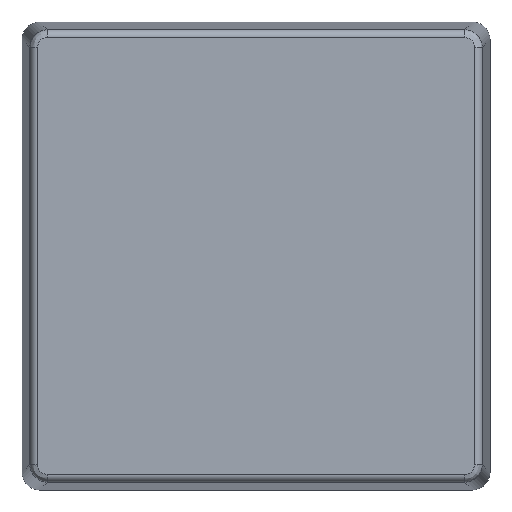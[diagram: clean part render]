
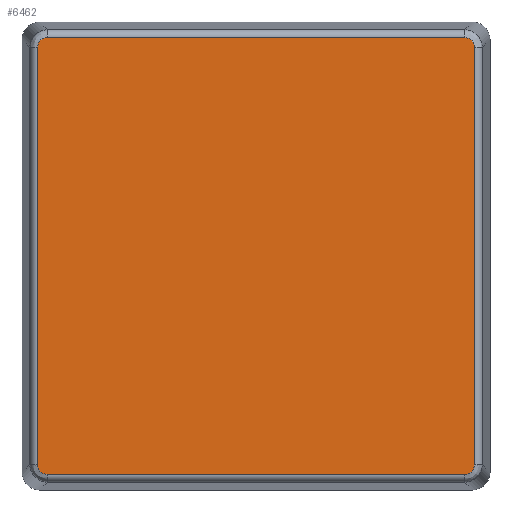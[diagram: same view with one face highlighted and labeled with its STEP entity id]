
A CAD part, front view. The second image highlights one B-rep face of the part: STEP entity #6462.
In plain terms, the highlighted planar face has unit normal (0, -1, 0) as drawn and (0, 0, -1) by its records, which use the part's own axes.
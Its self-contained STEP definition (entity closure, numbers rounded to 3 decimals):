
#63=ELLIPSE('',#6810,2.501,2.5);
#66=ELLIPSE('',#6816,2.501,2.5);
#69=ELLIPSE('',#6822,2.501,2.5);
#72=ELLIPSE('',#6829,2.501,2.5);
#953=FACE_OUTER_BOUND('',#1353,.T.);
#1353=EDGE_LOOP('',(#5396,#5397,#5398,#5399,#5400,#5401,#5402,#5403));
#1891=LINE('',#11469,#2435);
#1895=LINE('',#11516,#2439);
#1897=LINE('',#11519,#2441);
#1899=LINE('',#11522,#2443);
#2435=VECTOR('',#7927,107.015);
#2439=VECTOR('',#7945,107.015);
#2441=VECTOR('',#7949,107.015);
#2443=VECTOR('',#7953,107.015);
#2993=VERTEX_POINT('',#11366);
#2995=VERTEX_POINT('',#11370);
#2999=VERTEX_POINT('',#11410);
#3001=VERTEX_POINT('',#11414);
#3005=VERTEX_POINT('',#11454);
#3007=VERTEX_POINT('',#11458);
#3011=VERTEX_POINT('',#11501);
#3013=VERTEX_POINT('',#11505);
#3820=EDGE_CURVE('',#2995,#2993,#63,.T.);
#3827=EDGE_CURVE('',#3001,#2999,#66,.T.);
#3834=EDGE_CURVE('',#3007,#3005,#69,.T.);
#3839=EDGE_CURVE('',#2993,#3007,#1891,.T.);
#3843=EDGE_CURVE('',#3013,#3011,#72,.T.);
#3848=EDGE_CURVE('',#3005,#3013,#1895,.T.);
#3850=EDGE_CURVE('',#3011,#3001,#1897,.T.);
#3852=EDGE_CURVE('',#2999,#2995,#1899,.T.);
#5396=ORIENTED_EDGE('',*,*,#3843,.F.);
#5397=ORIENTED_EDGE('',*,*,#3848,.F.);
#5398=ORIENTED_EDGE('',*,*,#3834,.F.);
#5399=ORIENTED_EDGE('',*,*,#3839,.F.);
#5400=ORIENTED_EDGE('',*,*,#3820,.F.);
#5401=ORIENTED_EDGE('',*,*,#3852,.F.);
#5402=ORIENTED_EDGE('',*,*,#3827,.F.);
#5403=ORIENTED_EDGE('',*,*,#3850,.F.);
#6161=PLANE('',#6837);
#6462=ADVANCED_FACE('',(#953),#6161,.F.);
#6810=AXIS2_PLACEMENT_3D('',#11372,#7888,#7889);
#6816=AXIS2_PLACEMENT_3D('',#11416,#7902,#7903);
#6822=AXIS2_PLACEMENT_3D('',#11460,#7916,#7917);
#6829=AXIS2_PLACEMENT_3D('',#11507,#7934,#7935);
#6837=AXIS2_PLACEMENT_3D('',#11527,#7960,#7961);
#7888=DIRECTION('center_axis',(0.,0.,1.));
#7889=DIRECTION('ref_axis',(-0.707,-0.707,0.));
#7902=DIRECTION('center_axis',(0.,0.,1.));
#7903=DIRECTION('ref_axis',(-0.707,0.707,0.));
#7916=DIRECTION('center_axis',(0.,0.,1.));
#7917=DIRECTION('ref_axis',(0.707,-0.707,0.));
#7927=DIRECTION('',(1.,0.,0.));
#7934=DIRECTION('center_axis',(0.,0.,1.));
#7935=DIRECTION('ref_axis',(0.707,0.707,0.));
#7945=DIRECTION('',(0.,1.,0.));
#7949=DIRECTION('',(-1.,0.,0.));
#7953=DIRECTION('',(0.,-1.,0.));
#7960=DIRECTION('center_axis',(0.,0.,1.));
#7961=DIRECTION('ref_axis',(1.,0.,0.));
#11366=CARTESIAN_POINT('',(-53.508,-56.007,-89.8));
#11370=CARTESIAN_POINT('',(-56.007,-53.508,-89.8));
#11372=CARTESIAN_POINT('Origin',(-53.506,-53.506,-89.8));
#11410=CARTESIAN_POINT('',(-56.007,53.508,-89.8));
#11414=CARTESIAN_POINT('',(-53.508,56.007,-89.8));
#11416=CARTESIAN_POINT('Origin',(-53.506,53.506,-89.8));
#11454=CARTESIAN_POINT('',(56.007,-53.508,-89.8));
#11458=CARTESIAN_POINT('',(53.508,-56.007,-89.8));
#11460=CARTESIAN_POINT('Origin',(53.506,-53.506,-89.8));
#11469=CARTESIAN_POINT('',(-30.,-56.007,-89.8));
#11501=CARTESIAN_POINT('',(53.508,56.007,-89.8));
#11505=CARTESIAN_POINT('',(56.007,53.508,-89.8));
#11507=CARTESIAN_POINT('Origin',(53.506,53.506,-89.8));
#11516=CARTESIAN_POINT('',(56.007,-30.,-89.8));
#11519=CARTESIAN_POINT('',(30.,56.007,-89.8));
#11522=CARTESIAN_POINT('',(-56.007,30.,-89.8));
#11527=CARTESIAN_POINT('Origin',(0.,0.,
-89.8));
